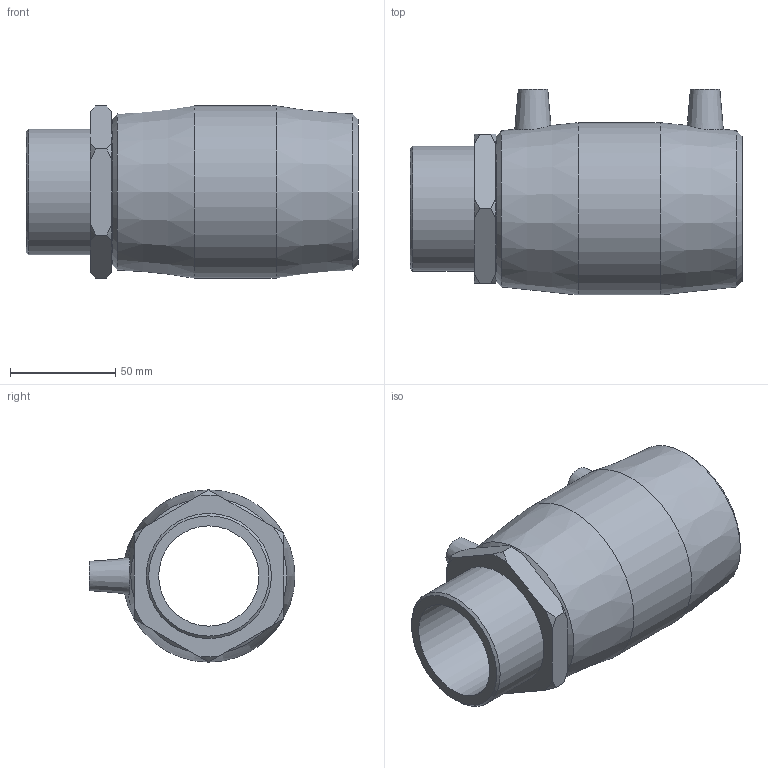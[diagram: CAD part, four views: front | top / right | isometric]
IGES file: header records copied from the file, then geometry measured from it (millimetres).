
Global section: file name: 492104063020.ipt; native system: Autodesk Inventor 2015; preprocessor: unknown; author: KIM; date: 20200202.122324; units: millimetre
Bounding box: 158 x 98 x 82 mm (x, y, z)
Volume: 350210.2 mm3; surface area: 77295.7 mm2
Topology: 1 solids, 2 shells, 54 faces, 129 edges, 88 vertices
Faces by surface type: plane 21, cone 19, revolution 8, cylinder 6
Full cylindrical faces by diameter (mm): 4 x2, 59.614 x1, 63 x2, 82 x1
